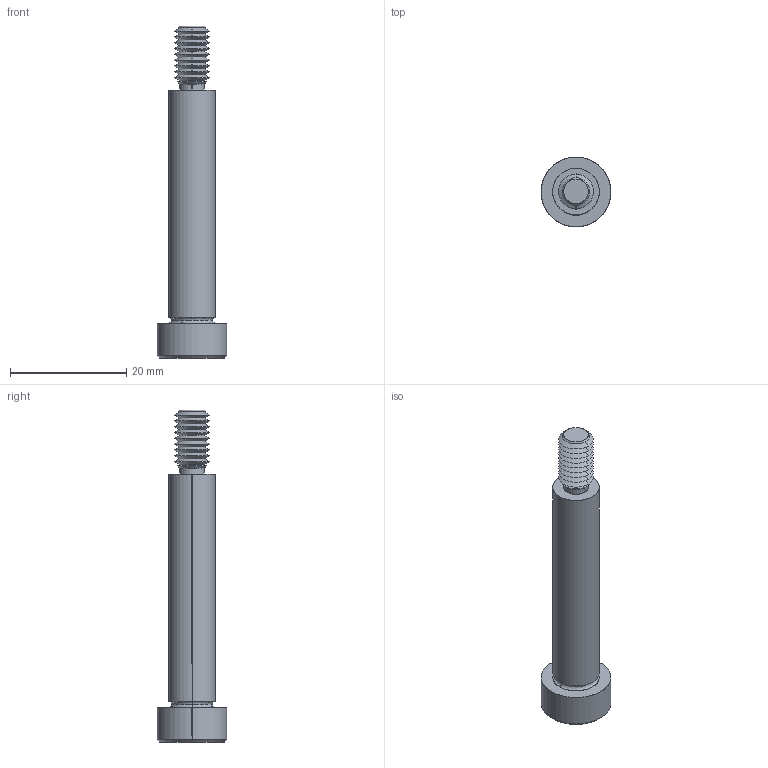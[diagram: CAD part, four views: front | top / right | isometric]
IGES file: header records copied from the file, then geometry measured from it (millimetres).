
Start section: SolidWorks IGES file using analytic representation for surfaces
Global section: file name: C:\Users\IanO\Documents\Temp Folder\GENERAL\SCREW REVISION\P0130_v2\P0130.T5_v2_20220106_IGES\P0130.080-040-T5.igs; native system: SolidWorks 2019; preprocessor: SolidWorks 2019; author: IanO; date: 220106.223550; units: millimetre
Bounding box: 12 x 12 x 57 mm (x, y, z)
Surface area: 1841.6 mm2 (no closed solid volume)
Topology: 0 solids, 0 shells, 80 faces, 580 edges, 578 vertices
Faces by surface type: revolution 60, bspline 20
